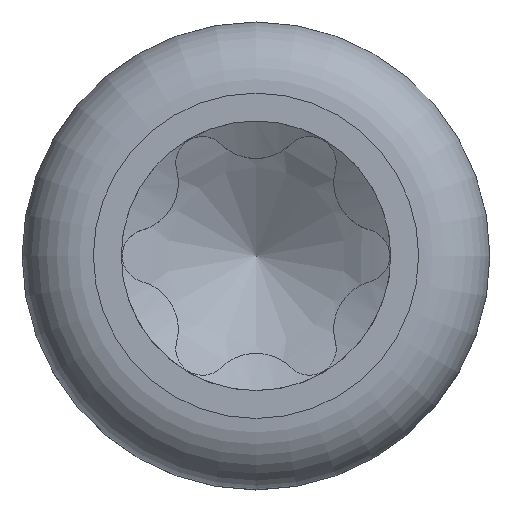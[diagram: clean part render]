
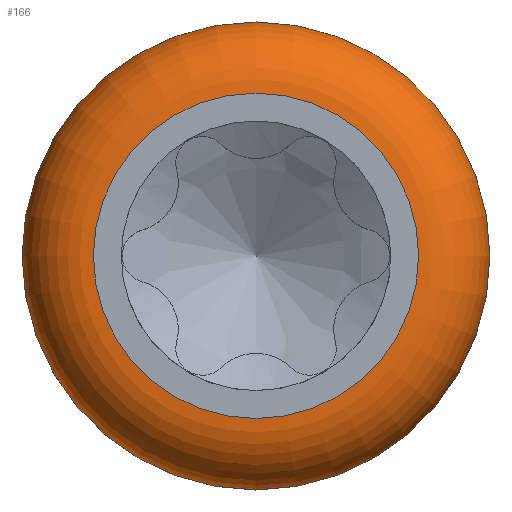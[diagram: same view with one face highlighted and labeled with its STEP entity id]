
A CAD part, top view. The second image highlights one B-rep face of the part: STEP entity #166.
In plain terms, the highlighted toroidal (fillet/blend) face has major radius 1.46 mm and minor radius 0.64 mm.
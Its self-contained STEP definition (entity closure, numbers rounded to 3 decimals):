
#129=TOROIDAL_SURFACE('',#835,1.46,0.64);
#140=FACE_BOUND('',#277,.T.);
#141=FACE_BOUND('',#278,.T.);
#166=ADVANCED_FACE('',(#140,#141),#129,.T.);
#277=EDGE_LOOP('',(#380));
#278=EDGE_LOOP('',(#381));
#335=CIRCLE('',#832,2.1);
#336=CIRCLE('',#834,1.46);
#380=ORIENTED_EDGE('',*,*,#673,.F.);
#381=ORIENTED_EDGE('',*,*,#672,.T.);
#594=VERTEX_POINT('',#1892);
#595=VERTEX_POINT('',#1895);
#672=EDGE_CURVE('',#594,#594,#335,.T.);
#673=EDGE_CURVE('',#595,#595,#336,.T.);
#832=AXIS2_PLACEMENT_3D('',#1891,#890,#891);
#834=AXIS2_PLACEMENT_3D('',#1894,#894,#895);
#835=AXIS2_PLACEMENT_3D('',#1896,#896,#897);
#890=DIRECTION('',(0.,0.,1.));
#891=DIRECTION('',(1.,0.,0.));
#894=DIRECTION('',(0.,0.,1.));
#895=DIRECTION('',(1.,0.,0.));
#896=DIRECTION('',(0.,0.,1.));
#897=DIRECTION('',(1.,0.,0.));
#1891=CARTESIAN_POINT('',(0.,0.,0.96));
#1892=CARTESIAN_POINT('',(2.1,0.,0.96));
#1894=CARTESIAN_POINT('',(0.,0.,1.6));
#1895=CARTESIAN_POINT('',(1.46,0.,1.6));
#1896=CARTESIAN_POINT('',(0.,0.,0.96));
